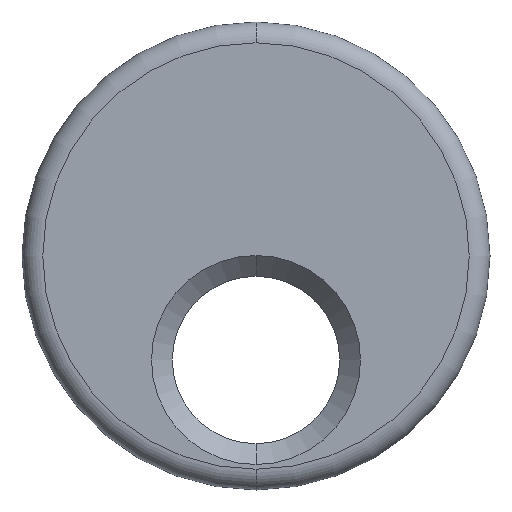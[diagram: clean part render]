
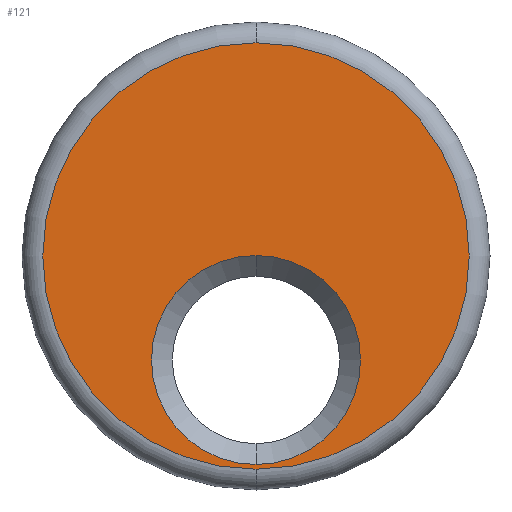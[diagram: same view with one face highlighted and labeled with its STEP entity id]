
A CAD part, front view. The second image highlights one B-rep face of the part: STEP entity #121.
In plain terms, the highlighted planar face has unit normal (0, -1, 0).
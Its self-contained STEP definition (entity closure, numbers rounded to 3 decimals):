
#5 = DIRECTION ( 'NONE',  ( 0., 0., 1. ) ) ;
#7 = PLANE ( 'NONE',  #281 ) ;
#9 = EDGE_CURVE ( 'NONE', #383, #254, #58, .T. ) ;
#10 = VERTEX_POINT ( 'NONE', #355 ) ;
#12 = FACE_BOUND ( 'NONE', #359, .T. ) ;
#24 = DIRECTION ( 'NONE',  ( 0., -1., 0. ) ) ;
#25 = EDGE_CURVE ( 'NONE', #254, #383, #157, .T. ) ;
#31 = CIRCLE ( 'NONE', #207, 20.5 ) ;
#38 = AXIS2_PLACEMENT_3D ( 'NONE', #71, #422, #215 ) ;
#50 = CARTESIAN_POINT ( 'NONE',  ( 0., 0., 0. ) ) ;
#58 = CIRCLE ( 'NONE', #38, 10.05 ) ;
#71 = CARTESIAN_POINT ( 'NONE',  ( 0., 0., -10. ) ) ;
#78 = CARTESIAN_POINT ( 'NONE',  ( 0., 0., 0. ) ) ;
#84 = DIRECTION ( 'NONE',  ( 0., 0., 1. ) ) ;
#85 = AXIS2_PLACEMENT_3D ( 'NONE', #424, #217, #5 ) ;
#86 = CIRCLE ( 'NONE', #335, 20.5 ) ;
#87 = ORIENTED_EDGE ( 'NONE', *, *, #256, .T. ) ;
#121 = ADVANCED_FACE ( 'NONE', ( #202, #12 ), #7, .F. ) ;
#157 = CIRCLE ( 'NONE', #85, 10.05 ) ;
#162 = ORIENTED_EDGE ( 'NONE', *, *, #9, .T. ) ;
#166 = CARTESIAN_POINT ( 'NONE',  ( 0., 0., -20.5 ) ) ;
#187 = DIRECTION ( 'NONE',  ( 0., 0., 1. ) ) ;
#202 = FACE_OUTER_BOUND ( 'NONE', #428, .T. ) ;
#207 = AXIS2_PLACEMENT_3D ( 'NONE', #237, #24, #276 ) ;
#215 = DIRECTION ( 'NONE',  ( 0., 0., 1. ) ) ;
#217 = DIRECTION ( 'NONE',  ( 0., 1., 0. ) ) ;
#237 = CARTESIAN_POINT ( 'NONE',  ( 0., 0., 0. ) ) ;
#254 = VERTEX_POINT ( 'NONE', #401 ) ;
#256 = EDGE_CURVE ( 'NONE', #371, #10, #86, .T. ) ;
#276 = DIRECTION ( 'NONE',  ( 0., 0., 1. ) ) ;
#281 = AXIS2_PLACEMENT_3D ( 'NONE', #78, #396, #187 ) ;
#288 = ORIENTED_EDGE ( 'NONE', *, *, #25, .T. ) ;
#299 = DIRECTION ( 'NONE',  ( 0., -1., 0. ) ) ;
#315 = ORIENTED_EDGE ( 'NONE', *, *, #419, .T. ) ;
#335 = AXIS2_PLACEMENT_3D ( 'NONE', #50, #299, #84 ) ;
#355 = CARTESIAN_POINT ( 'NONE',  ( 0., 0., 20.5 ) ) ;
#359 = EDGE_LOOP ( 'NONE', ( #288, #162 ) ) ;
#371 = VERTEX_POINT ( 'NONE', #166 ) ;
#383 = VERTEX_POINT ( 'NONE', #409 ) ;
#396 = DIRECTION ( 'NONE',  ( 0., 1., 0. ) ) ;
#401 = CARTESIAN_POINT ( 'NONE',  ( 0., 0., -20.05 ) ) ;
#409 = CARTESIAN_POINT ( 'NONE',  ( 0., 0., 0.05 ) ) ;
#419 = EDGE_CURVE ( 'NONE', #10, #371, #31, .T. ) ;
#422 = DIRECTION ( 'NONE',  ( 0., 1., 0. ) ) ;
#424 = CARTESIAN_POINT ( 'NONE',  ( 0., 0., -10. ) ) ;
#428 = EDGE_LOOP ( 'NONE', ( #315, #87 ) ) ;
